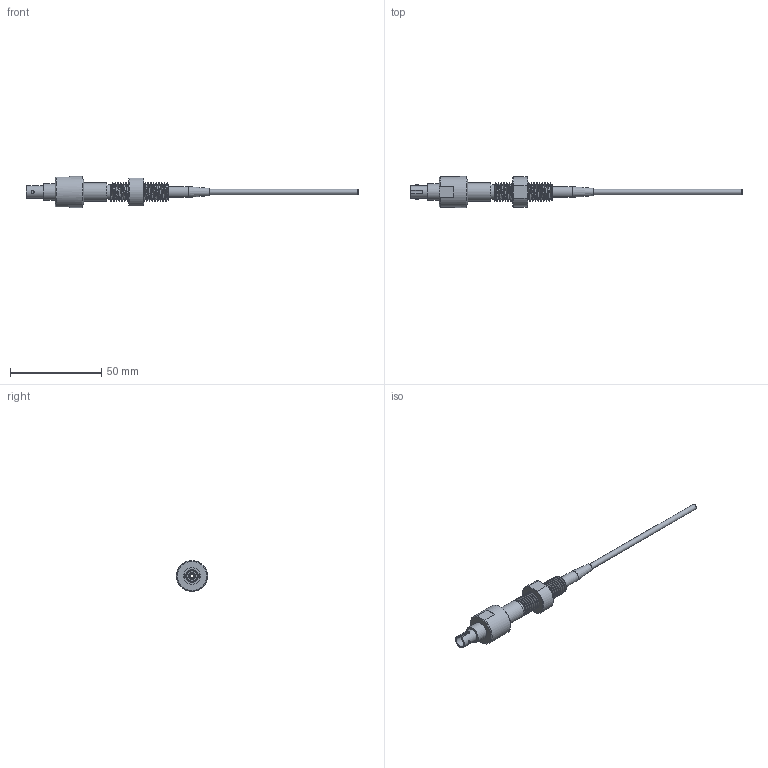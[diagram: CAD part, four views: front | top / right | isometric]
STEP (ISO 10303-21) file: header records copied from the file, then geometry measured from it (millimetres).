
FILE_DESCRIPTION (( 'STEP AP203' ), '1' );
FILE_NAME ('FFSTM10-PT.STEP', '2024-04-19T18:54:48', ( '' ), ( '' ), 'SwSTEP 2.0', 'SolidWorks 2023', '' );
FILE_SCHEMA (( 'CONFIG_CONTROL_DESIGN' ));
Length unit declared in the file: millimetre
Products named in the file (1): FFSTM10-PT
Bounding box: 181.8 x 17 x 17 mm (x, y, z)
Surface area: 7697.2 mm2 (no closed solid volume)
Topology: 0 solids, 7 shells, 82 faces, 187 edges, 115 vertices
Faces by surface type: plane 31, cylinder 19, cone 16, bspline 9, torus 7
Full cylindrical faces by diameter (mm): 1.45 x2, 2 x1, 3 x1, 5.7 x1, 6 x1, 6.9 x1, 8.2 x1, 9.2 x1, 10 x1, 14.8 x1, 17 x1
Entity records: 11468 total; most frequent: CARTESIAN_POINT 9812, DIRECTION 310, ORIENTED_EDGE 284, EDGE_CURVE 154, AXIS2_PLACEMENT_3D 138, EDGE_LOOP 118, VERTEX_POINT 107, FACE_OUTER_BOUND 99
